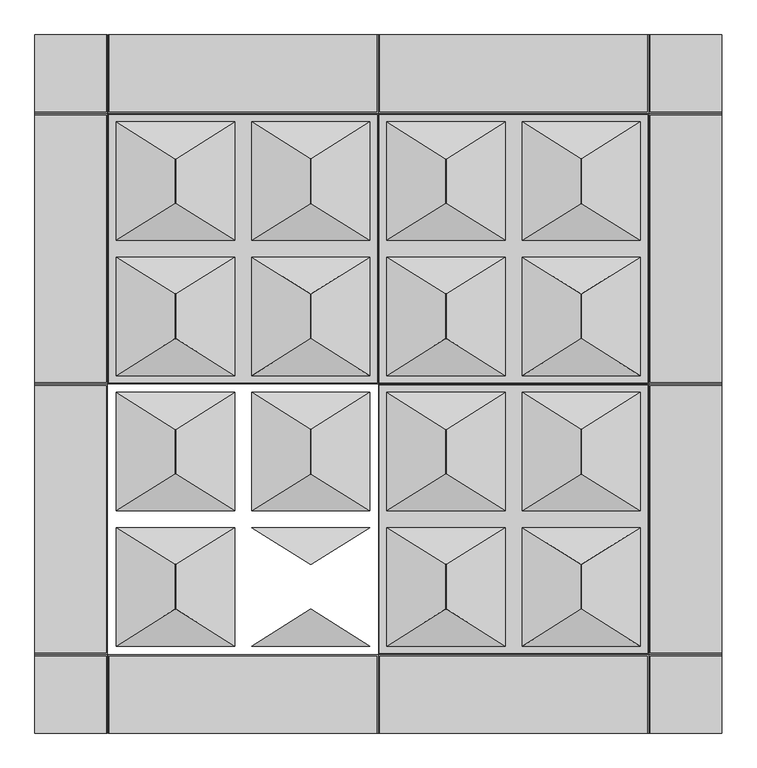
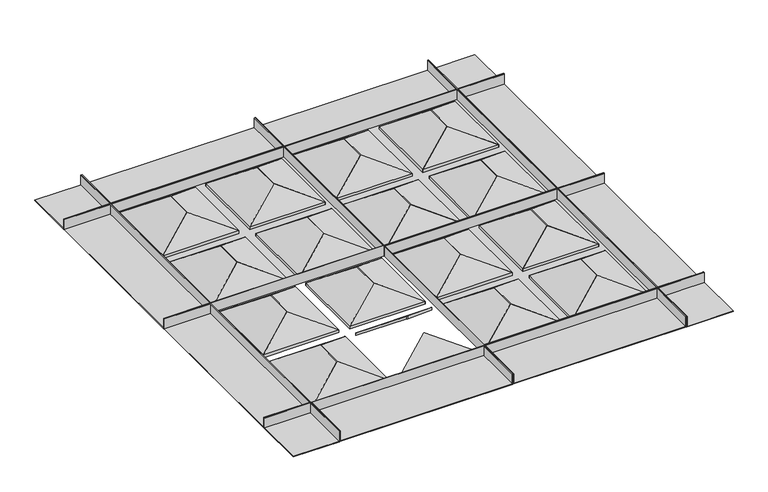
"""IFC4 building model written with IfcOpenShell, lengths in millimetres: proxy geometry, Maxxit_Piramid-Ceiling_rev-01 : Maxxit_Piramid-Ceiling_Quad."""

from ifc_helpers import new_model, si_unit, origin, place, context, project, spatial, faceted_brep, source, transform, mapped, element, save


def generic_models_4999bb29(model_context):
    return source(origin(), model_context, "Body", "Brep", [
        faceted_brep([(163.5125, 1395.4125, 25.4), (0.0, 1395.4125, 25.4), (0.0, 1393.825, 25.4), (161.925, 1393.825, 25.4), (161.925, 788.9875, 25.4), (0.0, 788.9875, 25.4), (0.0, 787.4, 25.4), (163.5125, 787.4, 25.4), (163.5125, 1395.4125, -12.7), (163.5125, 787.4, -12.7), (0.0, 787.4, -12.7), (0.0, 1395.4125, -12.7), (0.0, 788.9875, -11.1125), (0.0, 1393.825, -11.1125), (161.925, 788.9875, -11.1125), (161.925, 1393.825, -11.1125)], [[[0, 1, 2, 3, 4, 5, 6, 7]], [[8, 9, 10, 11]], [[1, 0, 8, 11]], [[11, 10, 6, 5, 12, 13, 2, 1]], [[7, 6, 10, 9]], [[0, 7, 9, 8]], [[14, 15, 13, 12]], [[13, 15, 3, 2]], [[14, 12, 5, 4]], [[15, 14, 4, 3]]]),
        faceted_brep([(163.5125, 785.8125, 25.4), (0.0, 785.8125, 25.4), (0.0, 784.225, 25.4), (161.925, 784.225, 25.4), (161.925, 179.3875, 25.4), (0.0, 179.3875, 25.4), (0.0, 177.8, 25.4), (163.5125, 177.8, 25.4), (163.5125, 785.8125, -12.7), (163.5125, 177.8, -12.7), (0.0, 177.8, -12.7), (0.0, 785.8125, -12.7), (0.0, 179.3875, -11.1125), (0.0, 784.225, -11.1125), (161.925, 179.3875, -11.1125), (161.925, 784.225, -11.1125)], [[[0, 1, 2, 3, 4, 5, 6, 7]], [[8, 9, 10, 11]], [[1, 0, 8, 11]], [[11, 10, 6, 5, 12, 13, 2, 1]], [[7, 6, 10, 9]], [[0, 7, 9, 8]], [[14, 15, 13, 12]], [[13, 15, 3, 2]], [[14, 12, 5, 4]], [[15, 14, 4, 3]]]),
        faceted_brep([(1384.3, 1395.4125, 25.4), (1384.3, 787.4, 25.4), (1547.8125, 787.4, 25.4), (1547.8125, 788.9875, 25.4), (1385.8875, 788.9875, 25.4), (1385.8875, 1393.825, 25.4), (1547.8125, 1393.825, 25.4), (1547.8125, 1395.4125, 25.4), (1384.3, 1395.4125, -12.7), (1547.8125, 1395.4125, -12.7), (1547.8125, 787.4, -12.7), (1384.3, 787.4, -12.7), (1547.8125, 1393.825, -11.1125), (1547.8125, 788.9875, -11.1125), (1385.8875, 788.9875, -11.1125), (1385.8875, 1393.825, -11.1125)], [[[0, 1, 2, 3, 4, 5, 6, 7]], [[8, 9, 10, 11]], [[7, 9, 8, 0]], [[9, 7, 6, 12, 13, 3, 2, 10]], [[1, 11, 10, 2]], [[0, 8, 11, 1]], [[14, 13, 12, 15]], [[12, 6, 5, 15]], [[14, 4, 3, 13]], [[15, 5, 4, 14]]]),
        faceted_brep([(1384.3, 785.8125, 25.4), (1384.3, 177.8, 25.4), (1547.8125, 177.8, 25.4), (1547.8125, 179.3875, 25.4), (1385.8875, 179.3875, 25.4), (1385.8875, 784.225, 25.4), (1547.8125, 784.225, 25.4), (1547.8125, 785.8125, 25.4), (1384.3, 785.8125, -12.7), (1547.8125, 785.8125, -12.7), (1547.8125, 177.8, -12.7), (1384.3, 177.8, -12.7), (1547.8125, 784.225, -11.1125), (1547.8125, 179.3875, -11.1125), (1385.8875, 179.3875, -11.1125), (1385.8875, 784.225, -11.1125)], [[[0, 1, 2, 3, 4, 5, 6, 7]], [[8, 9, 10, 11]], [[7, 9, 8, 0]], [[9, 7, 6, 12, 13, 3, 2, 10]], [[1, 11, 10, 2]], [[0, 8, 11, 1]], [[14, 13, 12, 15]], [[12, 6, 5, 15]], [[14, 4, 3, 13]], [[15, 5, 4, 14]]]),
        faceted_brep([(1382.7125, 1397.0, 25.4), (1382.7125, 1573.2125, 25.4), (1381.125, 1573.2125, 25.4), (1381.125, 1398.5875, 25.4), (776.2875, 1398.5875, 25.4), (776.2875, 1573.2125, 25.4), (774.7, 1573.2125, 25.4), (774.7, 1397.0, 25.4), (1382.7125, 1397.0, -12.7), (774.7, 1397.0, -12.7), (774.7, 1573.2125, -12.7), (1382.7125, 1573.2125, -12.7), (776.2875, 1573.2125, -11.1125), (1381.125, 1573.2125, -11.1125), (1381.125, 1398.5875, -11.1125), (776.2875, 1398.5875, -11.1125)], [[[0, 1, 2, 3, 4, 5, 6, 7]], [[8, 9, 10, 11]], [[7, 9, 8, 0]], [[6, 10, 9, 7]], [[10, 6, 5, 12, 13, 2, 1, 11]], [[0, 8, 11, 1]], [[14, 13, 12, 15]], [[15, 4, 3, 14]], [[15, 12, 5, 4]], [[3, 2, 13, 14]]]),
        faceted_brep([(773.1125, 1397.0, 25.4), (773.1125, 1573.2125, 25.4), (771.525, 1573.2125, 25.4), (771.525, 1398.5875, 25.4), (166.6875, 1398.5875, 25.4), (166.6875, 1573.2125, 25.4), (165.1, 1573.2125, 25.4), (165.1, 1397.0, 25.4), (773.1125, 1397.0, -12.7), (165.1, 1397.0, -12.7), (165.1, 1573.2125, -12.7), (773.1125, 1573.2125, -12.7), (166.6875, 1573.2125, -11.1125), (771.525, 1573.2125, -11.1125), (771.525, 1398.5875, -11.1125), (166.6875, 1398.5875, -11.1125)], [[[0, 1, 2, 3, 4, 5, 6, 7]], [[8, 9, 10, 11]], [[7, 9, 8, 0]], [[6, 10, 9, 7]], [[10, 6, 5, 12, 13, 2, 1, 11]], [[0, 8, 11, 1]], [[14, 13, 12, 15]], [[15, 4, 3, 14]], [[15, 12, 5, 4]], [[3, 2, 13, 14]]]),
        faceted_brep([(1382.7125, 176.2125, 25.4), (774.7, 176.2125, 25.4), (774.7, 0.0, 25.4), (776.2875, 0.0, 25.4), (776.2875, 174.625, 25.4), (1381.125, 174.625, 25.4), (1381.125, 0.0, 25.4), (1382.7125, 0.0, 25.4), (1382.7125, 176.2125, -12.7), (1382.7125, 0.0, -12.7), (774.7, 0.0, -12.7), (774.7, 176.2125, -12.7), (1381.125, 0.0, -11.1125), (776.2875, 0.0, -11.1125), (1381.125, 174.625, -11.1125), (776.2875, 174.625, -11.1125)], [[[0, 1, 2, 3, 4, 5, 6, 7]], [[8, 9, 10, 11]], [[1, 0, 8, 11]], [[2, 1, 11, 10]], [[10, 9, 7, 6, 12, 13, 3, 2]], [[0, 7, 9, 8]], [[14, 15, 13, 12]], [[15, 14, 5, 4]], [[15, 4, 3, 13]], [[5, 14, 12, 6]]]),
        faceted_brep([(773.1125, 176.2125, 25.4), (165.1, 176.2125, 25.4), (165.1, 0.0, 25.4), (166.6875, 0.0, 25.4), (166.6875, 174.625, 25.4), (771.525, 174.625, 25.4), (771.525, 0.0, 25.4), (773.1125, 0.0, 25.4), (773.1125, 176.2125, -12.7), (773.1125, 0.0, -12.7), (165.1, 0.0, -12.7), (165.1, 176.2125, -12.7), (771.525, 0.0, -11.1125), (166.6875, 0.0, -11.1125), (771.525, 174.625, -11.1125), (166.6875, 174.625, -11.1125)], [[[0, 1, 2, 3, 4, 5, 6, 7]], [[8, 9, 10, 11]], [[1, 0, 8, 11]], [[2, 1, 11, 10]], [[10, 9, 7, 6, 12, 13, 3, 2]], [[0, 7, 9, 8]], [[14, 15, 13, 12]], [[15, 14, 5, 4]], [[15, 4, 3, 13]], [[5, 14, 12, 6]]]),
        faceted_brep([(1547.8125, 176.2125, 25.4), (1384.3, 176.2125, 25.4), (1384.3, 0.0, 25.4), (1385.8875, 0.0, 25.4), (1385.8875, 174.625, 25.4), (1547.8125, 174.625, 25.4), (1384.3, 0.0, -12.7), (1384.3, 176.2125, -12.7), (1547.8125, 176.2125, -12.7), (1547.8125, 0.0, -12.7), (1547.8125, 0.0, -11.1125), (1385.8875, 0.0, -11.1125), (1547.8125, 174.625, -11.1125), (1385.8875, 174.625, -11.1125)], [[[0, 1, 2, 3, 4, 5]], [[6, 7, 8, 9]], [[6, 9, 10, 11, 3, 2]], [[9, 8, 0, 5, 12, 10]], [[2, 1, 7, 6]], [[1, 0, 8, 7]], [[13, 11, 10, 12]], [[11, 13, 4, 3]], [[13, 12, 5, 4]]]),
        faceted_brep([(163.5125, 0.0, 25.4), (163.5125, 176.2125, 25.4), (0.0, 176.2125, 25.4), (0.0, 174.625, 25.4), (161.925, 174.625, 25.4), (161.925, 0.0, 25.4), (0.0, 176.2125, -12.7), (163.5125, 176.2125, -12.7), (163.5125, 0.0, -12.7), (0.0, 0.0, -12.7), (0.0, 0.0, -11.1125), (0.0, 174.625, -11.1125), (161.925, 0.0, -11.1125), (161.925, 174.625, -11.1125)], [[[0, 1, 2, 3, 4, 5]], [[6, 7, 8, 9]], [[6, 9, 10, 11, 3, 2]], [[9, 8, 0, 5, 12, 10]], [[1, 0, 8, 7]], [[2, 1, 7, 6]], [[13, 11, 10, 12]], [[11, 13, 4, 3]], [[13, 12, 5, 4]]]),
        faceted_brep([(163.5125, 1397.0, 25.4), (163.5125, 1573.2125, 25.4), (161.925, 1573.2125, 25.4), (161.925, 1398.5875, 25.4), (0.0, 1398.5875, 25.4), (0.0, 1397.0, 25.4), (163.5125, 1397.0, -12.7), (0.0, 1397.0, -12.7), (0.0, 1573.2125, -12.7), (163.5125, 1573.2125, -12.7), (0.0, 1573.2125, -11.1125), (161.925, 1573.2125, -11.1125), (0.0, 1398.5875, -11.1125), (161.925, 1398.5875, -11.1125)], [[[0, 1, 2, 3, 4, 5]], [[6, 7, 8, 9]], [[1, 0, 6, 9]], [[0, 5, 7, 6]], [[9, 8, 10, 11, 2, 1]], [[8, 7, 5, 4, 12, 10]], [[13, 11, 10, 12]], [[11, 13, 3, 2]], [[13, 12, 4, 3]]]),
        faceted_brep([(1384.3, 1573.2125, 25.4), (1384.3, 1397.0, 25.4), (1547.8125, 1397.0, 25.4), (1547.8125, 1398.5875, 25.4), (1385.8875, 1398.5875, 25.4), (1385.8875, 1573.2125, 25.4), (1384.3, 1573.2125, -12.7), (1547.8125, 1573.2125, -12.7), (1547.8125, 1397.0, -12.7), (1384.3, 1397.0, -12.7), (1385.8875, 1573.2125, -11.1125), (1547.8125, 1573.2125, -11.1125), (1547.8125, 1398.5875, -11.1125), (1385.8875, 1398.5875, -11.1125)], [[[0, 1, 2, 3, 4, 5]], [[6, 7, 8, 9]], [[7, 6, 0, 5, 10, 11]], [[1, 0, 6, 9]], [[2, 1, 9, 8]], [[8, 7, 11, 12, 3, 2]], [[13, 12, 11, 10]], [[12, 13, 4, 3]], [[13, 10, 5, 4]]]),
        faceted_brep([(1364.45625, 1110.5651445, -11.1125), (1364.45625, 1377.2651445, -11.1125), (1364.45625, 1377.2651445, -1.5875), (1364.45625, 1110.5651445, -1.5875), (1097.75625, 1110.5651445, -1.5875), (1097.75625, 1377.2651445, -1.5875), (1097.75625, 1377.2651445, -11.1125), (1097.75625, 1110.5651445, -11.1125), (1232.6937779, 1294.715162, 62.70625), (1232.6937779, 1193.115127, 62.70625), (1232.6937779, 1193.115127, 53.18125), (1232.6937779, 1294.715162, 53.18125), (1229.5187221, 1193.115127, 53.18125), (1229.5187221, 1294.715162, 53.18125), (1229.5187221, 1193.115127, 62.70625), (1229.5187221, 1294.715162, 62.70625)], [[[0, 1, 2, 3]], [[4, 5, 6, 7]], [[3, 2, 8, 9]], [[1, 0, 10, 11]], [[11, 10, 12, 13]], [[7, 6, 13, 12]], [[5, 4, 14, 15]], [[15, 14, 9, 8]], [[11, 8, 2, 1]], [[15, 13, 6, 5]], [[12, 14, 4, 7]], [[9, 10, 0, 3]], [[13, 15, 8, 11]], [[14, 12, 10, 9]]]),
        faceted_brep([(1364.45625, 1377.2651445, -1.5875), (1097.75625, 1377.2651445, -1.5875), (1229.5187221, 1294.715162, 62.70625), (1232.6937779, 1294.715162, 62.70625), (1229.5187221, 1294.715162, 53.18125), (1232.6937779, 1294.715162, 53.18125), (1097.75625, 1377.2651445, -11.1125), (1364.45625, 1377.2651445, -11.1125)], [[[0, 1, 2, 3]], [[3, 2, 4, 5]], [[6, 7, 5, 4]], [[1, 0, 7, 6]], [[0, 3, 5, 7]], [[2, 1, 6, 4]]]),
        faceted_brep([(1097.75625, 1110.5651445, -11.1125), (1364.45625, 1110.5651445, -11.1125), (1364.45625, 1110.5651445, -1.5875), (1097.75625, 1110.5651445, -1.5875), (1229.5187221, 1193.115127, 53.18125), (1232.6937779, 1193.115127, 53.18125), (1229.5187221, 1193.115127, 62.70625), (1232.6937779, 1193.115127, 62.70625)], [[[0, 1, 2, 3]], [[1, 0, 4, 5]], [[5, 4, 6, 7]], [[3, 2, 7, 6]], [[2, 1, 5, 7]], [[0, 3, 6, 4]]]),
        faceted_brep([(1059.65625, 1377.2651445, -1.5875), (792.95625, 1377.2651445, -1.5875), (924.7187221, 1294.715162, 62.70625), (927.8937779, 1294.715162, 62.70625), (924.7187221, 1294.715162, 53.18125), (927.8937779, 1294.715162, 53.18125), (792.95625, 1377.2651445, -11.1125), (1059.65625, 1377.2651445, -11.1125)], [[[0, 1, 2, 3]], [[3, 2, 4, 5]], [[6, 7, 5, 4]], [[1, 0, 7, 6]], [[2, 1, 6, 4]], [[0, 3, 5, 7]]]),
        faceted_brep([(1059.65625, 1110.5651445, -1.5875), (792.95625, 1110.5651445, -1.5875), (792.95625, 1110.5651445, -11.1125), (1059.65625, 1110.5651445, -11.1125), (924.7187221, 1193.115127, 53.18125), (927.8937779, 1193.115127, 53.18125), (924.7187221, 1193.115127, 62.70625), (927.8937779, 1193.115127, 62.70625)], [[[0, 1, 2, 3]], [[3, 2, 4, 5]], [[5, 4, 6, 7]], [[1, 0, 7, 6]], [[2, 1, 6, 4]], [[0, 3, 5, 7]]]),
        faceted_brep([(792.95625, 1110.5651445, -1.5875), (792.95625, 1377.2651445, -1.5875), (792.95625, 1377.2651445, -11.1125), (792.95625, 1110.5651445, -11.1125), (1059.65625, 1110.5651445, -11.1125), (1059.65625, 1377.2651445, -11.1125), (1059.65625, 1377.2651445, -1.5875), (1059.65625, 1110.5651445, -1.5875), (924.7187221, 1193.115127, 62.70625), (924.7187221, 1294.715162, 62.70625), (924.7187221, 1294.715162, 53.18125), (924.7187221, 1193.115127, 53.18125), (927.8937779, 1294.715162, 53.18125), (927.8937779, 1193.115127, 53.18125), (927.8937779, 1294.715162, 62.70625), (927.8937779, 1193.115127, 62.70625)], [[[0, 1, 2, 3]], [[4, 5, 6, 7]], [[1, 0, 8, 9]], [[3, 2, 10, 11]], [[11, 10, 12, 13]], [[5, 4, 13, 12]], [[7, 6, 14, 15]], [[9, 8, 15, 14]], [[9, 10, 2, 1]], [[12, 14, 6, 5]], [[15, 13, 4, 7]], [[11, 8, 0, 3]], [[10, 9, 14, 12]], [[8, 11, 13, 15]]]),
        faceted_brep([(792.95625, 1072.2473555, -11.1125), (792.95625, 805.5473555, -11.1125), (792.95625, 805.5473555, -1.5875), (792.95625, 1072.2473555, -1.5875), (1059.65625, 1072.2473555, -1.5875), (1059.65625, 805.5473555, -1.5875), (1059.65625, 805.5473555, -11.1125), (1059.65625, 1072.2473555, -11.1125), (924.7187221, 888.097338, 62.70625), (924.7187221, 989.697373, 62.70625), (924.7187221, 989.697373, 53.18125), (924.7187221, 888.097338, 53.18125), (927.8937779, 989.697373, 53.18125), (927.8937779, 888.097338, 53.18125), (927.8937779, 989.697373, 62.70625), (927.8937779, 888.097338, 62.70625)], [[[0, 1, 2, 3]], [[4, 5, 6, 7]], [[3, 2, 8, 9]], [[1, 0, 10, 11]], [[11, 10, 12, 13]], [[7, 6, 13, 12]], [[5, 4, 14, 15]], [[15, 14, 9, 8]], [[11, 8, 2, 1]], [[15, 13, 6, 5]], [[12, 14, 4, 7]], [[9, 10, 0, 3]], [[13, 15, 8, 11]], [[14, 12, 10, 9]]]),
        faceted_brep([(792.95625, 805.5473555, -1.5875), (1059.65625, 805.5473555, -1.5875), (927.8937779, 888.097338, 62.70625), (924.7187221, 888.097338, 62.70625), (927.8937779, 888.097338, 53.18125), (924.7187221, 888.097338, 53.18125), (1059.65625, 805.5473555, -11.1125), (792.95625, 805.5473555, -11.1125)], [[[0, 1, 2, 3]], [[3, 2, 4, 5]], [[6, 7, 5, 4]], [[1, 0, 7, 6]], [[0, 3, 5, 7]], [[2, 1, 6, 4]]]),
        faceted_brep([(1059.65625, 1072.2473555, -11.1125), (792.95625, 1072.2473555, -11.1125), (792.95625, 1072.2473555, -1.5875), (1059.65625, 1072.2473555, -1.5875), (927.8937779, 989.697373, 53.18125), (924.7187221, 989.697373, 53.18125), (927.8937779, 989.697373, 62.70625), (924.7187221, 989.697373, 62.70625)], [[[0, 1, 2, 3]], [[1, 0, 4, 5]], [[5, 4, 6, 7]], [[3, 2, 7, 6]], [[2, 1, 5, 7]], [[0, 3, 6, 4]]]),
        faceted_brep([(1097.75625, 805.5473555, -1.5875), (1364.45625, 805.5473555, -1.5875), (1232.6937779, 888.097338, 62.70625), (1229.5187221, 888.097338, 62.70625), (1232.6937779, 888.097338, 53.18125), (1229.5187221, 888.097338, 53.18125), (1364.45625, 805.5473555, -11.1125), (1097.75625, 805.5473555, -11.1125)], [[[0, 1, 2, 3]], [[3, 2, 4, 5]], [[6, 7, 5, 4]], [[1, 0, 7, 6]], [[2, 1, 6, 4]], [[0, 3, 5, 7]]]),
        faceted_brep([(1097.75625, 1072.2473555, -1.5875), (1364.45625, 1072.2473555, -1.5875), (1364.45625, 1072.2473555, -11.1125), (1097.75625, 1072.2473555, -11.1125), (1232.6937779, 989.697373, 53.18125), (1229.5187221, 989.697373, 53.18125), (1232.6937779, 989.697373, 62.70625), (1229.5187221, 989.697373, 62.70625)], [[[0, 1, 2, 3]], [[3, 2, 4, 5]], [[5, 4, 6, 7]], [[1, 0, 7, 6]], [[2, 1, 6, 4]], [[0, 3, 5, 7]]]),
        faceted_brep([(1364.45625, 1072.2473555, -1.5875), (1364.45625, 805.5473555, -1.5875), (1364.45625, 805.5473555, -11.1125), (1364.45625, 1072.2473555, -11.1125), (1097.75625, 1072.2473555, -11.1125), (1097.75625, 805.5473555, -11.1125), (1097.75625, 805.5473555, -1.5875), (1097.75625, 1072.2473555, -1.5875), (1232.6937779, 989.697373, 62.70625), (1232.6937779, 888.097338, 62.70625), (1232.6937779, 888.097338, 53.18125), (1229.5187221, 888.097338, 53.18125), (1229.5187221, 888.097338, 62.70625), (1229.5187221, 989.697373, 62.70625), (1229.5187221, 989.697373, 53.18125), (1232.6937779, 989.697373, 53.18125)], [[[0, 1, 2, 3]], [[4, 5, 6, 7]], [[1, 0, 8, 9]], [[9, 10, 2, 1]], [[11, 12, 6, 5]], [[13, 14, 4, 7]], [[15, 8, 0, 3]], [[10, 9, 12, 11]], [[8, 15, 14, 13]], [[3, 2, 10, 15]], [[15, 10, 11, 14]], [[5, 4, 14, 11]], [[7, 6, 12, 13]], [[9, 8, 13, 12]]]),
        faceted_brep([(774.7, 787.4, 25.4), (1382.7125, 787.4, 25.4), (1382.7125, 1395.4125, 25.4), (774.7, 1395.4125, 25.4), (1381.125, 788.9875, 25.4), (776.2875, 788.9875, 25.4), (776.2875, 1393.825, 25.4), (1381.125, 1393.825, 25.4), (774.7, 787.4, -12.7), (774.7, 1395.4125, -12.7), (1382.7125, 1395.4125, -12.7), (1382.7125, 787.4, -12.7), (1364.45625, 805.5473555, -12.7), (1364.45625, 1072.2473555, -12.7), (1097.75625, 1072.2473555, -12.7), (1097.75625, 805.5473555, -12.7), (792.95625, 805.5473555, -12.7), (1059.65625, 805.5473555, -12.7), (1059.65625, 888.097338, -12.7), (1059.65625, 989.697373, -12.7), (1059.65625, 1072.2473555, -12.7), (792.95625, 1072.2473555, -12.7), (792.95625, 989.6973555, -12.7), (792.95625, 888.0973555, -12.7), (1364.45625, 1377.2651445, -12.7), (1097.75625, 1377.2651445, -12.7), (1097.75625, 1294.715162, -12.7), (1097.75625, 1193.115127, -12.7), (1097.75625, 1110.5651445, -12.7), (1364.45625, 1110.5651445, -12.7), (1364.45625, 1193.1151445, -12.7), (1364.45625, 1294.7151445, -12.7), (792.95625, 1110.5651445, -12.7), (1059.65625, 1110.5651445, -12.7), (1059.65625, 1193.115127, -12.7), (1059.65625, 1294.715162, -12.7), (1059.65625, 1377.2651445, -12.7), (792.95625, 1377.2651445, -12.7), (792.95625, 1294.7151445, -12.7), (792.95625, 1193.1151445, -12.7), (776.2875, 788.9875, -11.1125), (1381.125, 788.9875, -11.1125), (1381.125, 1393.825, -11.1125), (776.2875, 1393.825, -11.1125), (1364.45625, 805.5473555, -11.1125), (1097.75625, 805.5473555, -11.1125), (1097.75625, 1072.2473555, -11.1125), (1364.45625, 1072.2473555, -11.1125), (792.95625, 1072.2473555, -11.1125), (1059.65625, 1072.2473555, -11.1125), (1059.65625, 989.697373, -11.1125), (1059.65625, 888.097338, -11.1125), (1059.65625, 805.5473555, -11.1125), (792.95625, 805.5473555, -11.1125), (792.95625, 888.0973555, -11.1125), (792.95625, 989.6973555, -11.1125), (1364.45625, 1110.5651445, -11.1125), (1097.75625, 1110.5651445, -11.1125), (1097.75625, 1193.115127, -11.1125), (1097.75625, 1294.715162, -11.1125), (1097.75625, 1377.2651445, -11.1125), (1364.45625, 1377.2651445, -11.1125), (1364.45625, 1294.7151445, -11.1125), (1364.45625, 1193.1151445, -11.1125), (792.95625, 1377.2651445, -11.1125), (1059.65625, 1377.2651445, -11.1125), (1059.65625, 1294.715162, -11.1125), (1059.65625, 1193.115127, -11.1125), (1059.65625, 1110.5651445, -11.1125), (792.95625, 1110.5651445, -11.1125), (792.95625, 1193.1151445, -11.1125), (792.95625, 1294.7151445, -11.1125)], [[[0, 1, 2, 3], [4, 5, 6, 7]], [[8, 9, 10, 11], [12, 13, 14, 15], [16, 17, 18, 19, 20, 21, 22, 23], [24, 25, 26, 27, 28, 29, 30, 31], [32, 33, 34, 35, 36, 37, 38, 39]], [[1, 0, 8, 11]], [[2, 1, 11, 10]], [[3, 2, 10, 9]], [[0, 3, 9, 8]], [[40, 41, 42, 43], [44, 45, 46, 47], [48, 49, 50, 51, 52, 53, 54, 55], [56, 57, 58, 59, 60, 61, 62, 63], [64, 65, 66, 67, 68, 69, 70, 71]], [[41, 40, 5, 4]], [[42, 41, 4, 7]], [[43, 42, 7, 6]], [[40, 43, 6, 5]], [[12, 15, 45, 44]], [[15, 14, 46, 45]], [[14, 13, 47, 46]], [[13, 12, 44, 47]], [[53, 16, 23, 22, 21, 48, 55, 54]], [[21, 20, 49, 48]], [[49, 20, 19, 18, 17, 52, 51, 50]], [[17, 16, 53, 52]], [[61, 24, 31, 30, 29, 56, 63, 62]], [[29, 28, 57, 56]], [[57, 28, 27, 26, 25, 60, 59, 58]], [[25, 24, 61, 60]], [[37, 36, 65, 64]], [[65, 36, 35, 34, 33, 68, 67, 66]], [[33, 32, 69, 68]], [[37, 64, 71, 70, 69, 32, 39, 38]]]),
        faceted_brep([(754.85625, 1110.5651445, -11.1125), (754.85625, 1377.2651445, -11.1125), (754.85625, 1377.2651445, -1.5875), (754.85625, 1110.5651445, -1.5875), (488.15625, 1110.5651445, -1.5875), (488.15625, 1377.2651445, -1.5875), (488.15625, 1377.2651445, -11.1125), (488.15625, 1110.5651445, -11.1125), (623.0937779, 1294.715162, 62.70625), (623.0937779, 1193.115127, 62.70625), (623.0937779, 1193.115127, 53.18125), (623.0937779, 1294.715162, 53.18125), (619.9187221, 1193.115127, 53.18125), (619.9187221, 1294.715162, 53.18125), (619.9187221, 1193.115127, 62.70625), (619.9187221, 1294.715162, 62.70625)], [[[0, 1, 2, 3]], [[4, 5, 6, 7]], [[3, 2, 8, 9]], [[1, 0, 10, 11]], [[11, 10, 12, 13]], [[7, 6, 13, 12]], [[5, 4, 14, 15]], [[15, 14, 9, 8]], [[11, 8, 2, 1]], [[15, 13, 6, 5]], [[12, 14, 4, 7]], [[9, 10, 0, 3]], [[13, 15, 8, 11]], [[14, 12, 10, 9]]]),
        faceted_brep([(754.85625, 1377.2651445, -1.5875), (488.15625, 1377.2651445, -1.5875), (619.9187221, 1294.715162, 62.70625), (623.0937779, 1294.715162, 62.70625), (619.9187221, 1294.715162, 53.18125), (623.0937779, 1294.715162, 53.18125), (488.15625, 1377.2651445, -11.1125), (754.85625, 1377.2651445, -11.1125)], [[[0, 1, 2, 3]], [[3, 2, 4, 5]], [[6, 7, 5, 4]], [[1, 0, 7, 6]], [[0, 3, 5, 7]], [[2, 1, 6, 4]]]),
        faceted_brep([(488.15625, 1110.5651445, -11.1125), (754.85625, 1110.5651445, -11.1125), (754.85625, 1110.5651445, -1.5875), (488.15625, 1110.5651445, -1.5875), (619.9187221, 1193.115127, 53.18125), (623.0937779, 1193.115127, 53.18125), (619.9187221, 1193.115127, 62.70625), (623.0937779, 1193.115127, 62.70625)], [[[0, 1, 2, 3]], [[1, 0, 4, 5]], [[5, 4, 6, 7]], [[3, 2, 7, 6]], [[2, 1, 5, 7]], [[0, 3, 6, 4]]]),
        faceted_brep([(450.05625, 1377.2651445, -1.5875), (183.35625, 1377.2651445, -1.5875), (315.1187221, 1294.715162, 62.70625), (318.2937779, 1294.715162, 62.70625), (315.1187221, 1294.715162, 53.18125), (318.2937779, 1294.715162, 53.18125), (183.35625, 1377.2651445, -11.1125), (450.05625, 1377.2651445, -11.1125)], [[[0, 1, 2, 3]], [[3, 2, 4, 5]], [[6, 7, 5, 4]], [[1, 0, 7, 6]], [[2, 1, 6, 4]], [[0, 3, 5, 7]]]),
        faceted_brep([(450.05625, 1110.5651445, -1.5875), (183.35625, 1110.5651445, -1.5875), (183.35625, 1110.5651445, -11.1125), (450.05625, 1110.5651445, -11.1125), (315.1187221, 1193.115127, 53.18125), (318.2937779, 1193.115127, 53.18125), (315.1187221, 1193.115127, 62.70625), (318.2937779, 1193.115127, 62.70625)], [[[0, 1, 2, 3]], [[3, 2, 4, 5]], [[5, 4, 6, 7]], [[1, 0, 7, 6]], [[2, 1, 6, 4]], [[0, 3, 5, 7]]]),
        faceted_brep([(183.35625, 1110.5651445, -1.5875), (183.35625, 1377.2651445, -1.5875), (183.35625, 1377.2651445, -11.1125), (183.35625, 1110.5651445, -11.1125), (450.05625, 1110.5651445, -11.1125), (450.05625, 1377.2651445, -11.1125), (450.05625, 1377.2651445, -1.5875), (450.05625, 1110.5651445, -1.5875), (315.1187221, 1193.115127, 62.70625), (315.1187221, 1294.715162, 62.70625), (315.1187221, 1294.715162, 53.18125), (315.1187221, 1193.115127, 53.18125), (318.2937779, 1294.715162, 53.18125), (318.2937779, 1193.115127, 53.18125), (318.2937779, 1294.715162, 62.70625), (318.2937779, 1193.115127, 62.70625)], [[[0, 1, 2, 3]], [[4, 5, 6, 7]], [[1, 0, 8, 9]], [[3, 2, 10, 11]], [[11, 10, 12, 13]], [[5, 4, 13, 12]], [[7, 6, 14, 15]], [[9, 8, 15, 14]], [[9, 10, 2, 1]], [[12, 14, 6, 5]], [[15, 13, 4, 7]], [[11, 8, 0, 3]], [[10, 9, 14, 12]], [[8, 11, 13, 15]]]),
        faceted_brep([(183.35625, 1072.2473555, -11.1125), (183.35625, 805.5473555, -11.1125), (183.35625, 805.5473555, -1.5875), (183.35625, 1072.2473555, -1.5875), (450.05625, 1072.2473555, -1.5875), (450.05625, 805.5473555, -1.5875), (450.05625, 805.5473555, -11.1125), (450.05625, 1072.2473555, -11.1125), (315.1187221, 888.097338, 62.70625), (315.1187221, 989.697373, 62.70625), (315.1187221, 989.697373, 53.18125), (315.1187221, 888.097338, 53.18125), (318.2937779, 989.697373, 53.18125), (318.2937779, 888.097338, 53.18125), (318.2937779, 989.697373, 62.70625), (318.2937779, 888.097338, 62.70625)], [[[0, 1, 2, 3]], [[4, 5, 6, 7]], [[3, 2, 8, 9]], [[1, 0, 10, 11]], [[11, 10, 12, 13]], [[7, 6, 13, 12]], [[5, 4, 14, 15]], [[15, 14, 9, 8]], [[11, 8, 2, 1]], [[15, 13, 6, 5]], [[12, 14, 4, 7]], [[9, 10, 0, 3]], [[13, 15, 8, 11]], [[14, 12, 10, 9]]]),
        faceted_brep([(183.35625, 805.5473555, -1.5875), (450.05625, 805.5473555, -1.5875), (318.2937779, 888.097338, 62.70625), (315.1187221, 888.097338, 62.70625), (318.2937779, 888.097338, 53.18125), (315.1187221, 888.097338, 53.18125), (450.05625, 805.5473555, -11.1125), (183.35625, 805.5473555, -11.1125)], [[[0, 1, 2, 3]], [[3, 2, 4, 5]], [[6, 7, 5, 4]], [[1, 0, 7, 6]], [[0, 3, 5, 7]], [[2, 1, 6, 4]]]),
        faceted_brep([(450.05625, 1072.2473555, -11.1125), (183.35625, 1072.2473555, -11.1125), (183.35625, 1072.2473555, -1.5875), (450.05625, 1072.2473555, -1.5875), (318.2937779, 989.697373, 53.18125), (315.1187221, 989.697373, 53.18125), (318.2937779, 989.697373, 62.70625), (315.1187221, 989.697373, 62.70625)], [[[0, 1, 2, 3]], [[1, 0, 4, 5]], [[5, 4, 6, 7]], [[3, 2, 7, 6]], [[2, 1, 5, 7]], [[0, 3, 6, 4]]]),
        faceted_brep([(488.15625, 805.5473555, -1.5875), (754.85625, 805.5473555, -1.5875), (623.0937779, 888.097338, 62.70625), (619.9187221, 888.097338, 62.70625), (623.0937779, 888.097338, 53.18125), (619.9187221, 888.097338, 53.18125), (754.85625, 805.5473555, -11.1125), (488.15625, 805.5473555, -11.1125)], [[[0, 1, 2, 3]], [[3, 2, 4, 5]], [[6, 7, 5, 4]], [[1, 0, 7, 6]], [[2, 1, 6, 4]], [[0, 3, 5, 7]]]),
        faceted_brep([(488.15625, 1072.2473555, -1.5875), (754.85625, 1072.2473555, -1.5875), (754.85625, 1072.2473555, -11.1125), (488.15625, 1072.2473555, -11.1125), (623.0937779, 989.697373, 53.18125), (619.9187221, 989.697373, 53.18125), (623.0937779, 989.697373, 62.70625), (619.9187221, 989.697373, 62.70625)], [[[0, 1, 2, 3]], [[3, 2, 4, 5]], [[5, 4, 6, 7]], [[1, 0, 7, 6]], [[2, 1, 6, 4]], [[0, 3, 5, 7]]]),
        faceted_brep([(754.85625, 1072.2473555, -1.5875), (754.85625, 805.5473555, -1.5875), (754.85625, 805.5473555, -11.1125), (754.85625, 1072.2473555, -11.1125), (488.15625, 1072.2473555, -11.1125), (488.15625, 805.5473555, -11.1125), (488.15625, 805.5473555, -1.5875), (488.15625, 1072.2473555, -1.5875), (623.0937779, 989.697373, 62.70625), (623.0937779, 888.097338, 62.70625), (623.0937779, 888.097338, 53.18125), (619.9187221, 888.097338, 53.18125), (619.9187221, 888.097338, 62.70625), (619.9187221, 989.697373, 62.70625), (619.9187221, 989.697373, 53.18125), (623.0937779, 989.697373, 53.18125)], [[[0, 1, 2, 3]], [[4, 5, 6, 7]], [[1, 0, 8, 9]], [[9, 10, 2, 1]], [[11, 12, 6, 5]], [[13, 14, 4, 7]], [[15, 8, 0, 3]], [[10, 9, 12, 11]], [[8, 15, 14, 13]], [[3, 2, 10, 15]], [[15, 10, 11, 14]], [[5, 4, 14, 11]], [[7, 6, 12, 13]], [[9, 8, 13, 12]]]),
        faceted_brep([(165.1, 787.4, 25.4), (773.1125, 787.4, 25.4), (773.1125, 1395.4125, 25.4), (165.1, 1395.4125, 25.4), (771.525, 788.9875, 25.4), (166.6875, 788.9875, 25.4), (166.6875, 1393.825, 25.4), (771.525, 1393.825, 25.4), (165.1, 787.4, -12.7), (165.1, 1395.4125, -12.7), (773.1125, 1395.4125, -12.7), (773.1125, 787.4, -12.7), (754.85625, 805.5473555, -12.7), (754.85625, 1072.2473555, -12.7), (488.15625, 1072.2473555, -12.7), (488.15625, 805.5473555, -12.7), (183.35625, 805.5473555, -12.7), (450.05625, 805.5473555, -12.7), (450.05625, 888.097338, -12.7), (450.05625, 989.697373, -12.7), (450.05625, 1072.2473555, -12.7), (183.35625, 1072.2473555, -12.7), (183.35625, 989.6973555, -12.7), (183.35625, 888.0973555, -12.7), (754.85625, 1377.2651445, -12.7), (488.15625, 1377.2651445, -12.7), (488.15625, 1294.715162, -12.7), (488.15625, 1193.115127, -12.7), (488.15625, 1110.5651445, -12.7), (754.85625, 1110.5651445, -12.7), (754.85625, 1193.1151445, -12.7), (754.85625, 1294.7151445, -12.7), (183.35625, 1110.5651445, -12.7), (450.05625, 1110.5651445, -12.7), (450.05625, 1193.115127, -12.7), (450.05625, 1294.715162, -12.7), (450.05625, 1377.2651445, -12.7), (183.35625, 1377.2651445, -12.7), (183.35625, 1294.7151445, -12.7), (183.35625, 1193.1151445, -12.7), (166.6875, 788.9875, -11.1125), (771.525, 788.9875, -11.1125), (771.525, 1393.825, -11.1125), (166.6875, 1393.825, -11.1125), (754.85625, 805.5473555, -11.1125), (488.15625, 805.5473555, -11.1125), (488.15625, 1072.2473555, -11.1125), (754.85625, 1072.2473555, -11.1125), (183.35625, 1072.2473555, -11.1125), (450.05625, 1072.2473555, -11.1125), (450.05625, 989.697373, -11.1125), (450.05625, 888.097338, -11.1125), (450.05625, 805.5473555, -11.1125), (183.35625, 805.5473555, -11.1125), (183.35625, 888.0973555, -11.1125), (183.35625, 989.6973555, -11.1125), (754.85625, 1110.5651445, -11.1125), (488.15625, 1110.5651445, -11.1125), (488.15625, 1193.115127, -11.1125), (488.15625, 1294.715162, -11.1125), (488.15625, 1377.2651445, -11.1125), (754.85625, 1377.2651445, -11.1125), (754.85625, 1294.7151445, -11.1125), (754.85625, 1193.1151445, -11.1125), (183.35625, 1377.2651445, -11.1125), (450.05625, 1377.2651445, -11.1125), (450.05625, 1294.715162, -11.1125), (450.05625, 1193.115127, -11.1125), (450.05625, 1110.5651445, -11.1125), (183.35625, 1110.5651445, -11.1125), (183.35625, 1193.1151445, -11.1125), (183.35625, 1294.7151445, -11.1125)], [[[0, 1, 2, 3], [4, 5, 6, 7]], [[8, 9, 10, 11], [12, 13, 14, 15], [16, 17, 18, 19, 20, 21, 22, 23], [24, 25, 26, 27, 28, 29, 30, 31], [32, 33, 34, 35, 36, 37, 38, 39]], [[1, 0, 8, 11]], [[2, 1, 11, 10]], [[3, 2, 10, 9]], [[0, 3, 9, 8]], [[40, 41, 42, 43], [44, 45, 46, 47], [48, 49, 50, 51, 52, 53, 54, 55], [56, 57, 58, 59, 60, 61, 62, 63], [64, 65, 66, 67, 68, 69, 70, 71]], [[41, 40, 5, 4]], [[42, 41, 4, 7]], [[43, 42, 7, 6]], [[40, 43, 6, 5]], [[12, 15, 45, 44]], [[15, 14, 46, 45]], [[14, 13, 47, 46]], [[13, 12, 44, 47]], [[53, 16, 23, 22, 21, 48, 55, 54]], [[21, 20, 49, 48]], [[49, 20, 19, 18, 17, 52, 51, 50]], [[17, 16, 53, 52]], [[61, 24, 31, 30, 29, 56, 63, 62]], [[29, 28, 57, 56]], [[57, 28, 27, 26, 25, 60, 59, 58]], [[25, 24, 61, 60]], [[37, 36, 65, 64]], [[65, 36, 35, 34, 33, 68, 67, 66]], [[33, 32, 69, 68]], [[37, 64, 71, 70, 69, 32, 39, 38]]]),
        faceted_brep([(1364.45625, 500.9651445, -11.1125), (1364.45625, 767.6651445, -11.1125), (1364.45625, 767.6651445, -1.5875), (1364.45625, 500.9651445, -1.5875), (1097.75625, 500.9651445, -1.5875), (1097.75625, 767.6651445, -1.5875), (1097.75625, 767.6651445, -11.1125), (1097.75625, 500.9651445, -11.1125), (1232.6937779, 685.115162, 62.70625), (1232.6937779, 583.515127, 62.70625), (1232.6937779, 583.515127, 53.18125), (1232.6937779, 685.115162, 53.18125), (1229.5187221, 583.515127, 53.18125), (1229.5187221, 685.115162, 53.18125), (1229.5187221, 583.515127, 62.70625), (1229.5187221, 685.115162, 62.70625)], [[[0, 1, 2, 3]], [[4, 5, 6, 7]], [[3, 2, 8, 9]], [[1, 0, 10, 11]], [[11, 10, 12, 13]], [[7, 6, 13, 12]], [[5, 4, 14, 15]], [[15, 14, 9, 8]], [[11, 8, 2, 1]], [[15, 13, 6, 5]], [[12, 14, 4, 7]], [[9, 10, 0, 3]], [[13, 15, 8, 11]], [[14, 12, 10, 9]]]),
        faceted_brep([(1364.45625, 767.6651445, -1.5875), (1097.75625, 767.6651445, -1.5875), (1229.5187221, 685.115162, 62.70625), (1232.6937779, 685.115162, 62.70625), (1229.5187221, 685.115162, 53.18125), (1232.6937779, 685.115162, 53.18125), (1097.75625, 767.6651445, -11.1125), (1364.45625, 767.6651445, -11.1125)], [[[0, 1, 2, 3]], [[3, 2, 4, 5]], [[6, 7, 5, 4]], [[1, 0, 7, 6]], [[0, 3, 5, 7]], [[2, 1, 6, 4]]]),
        faceted_brep([(1097.75625, 500.9651445, -11.1125), (1364.45625, 500.9651445, -11.1125), (1364.45625, 500.9651445, -1.5875), (1097.75625, 500.9651445, -1.5875), (1229.5187221, 583.515127, 53.18125), (1232.6937779, 583.515127, 53.18125), (1229.5187221, 583.515127, 62.70625), (1232.6937779, 583.515127, 62.70625)], [[[0, 1, 2, 3]], [[1, 0, 4, 5]], [[5, 4, 6, 7]], [[3, 2, 7, 6]], [[2, 1, 5, 7]], [[0, 3, 6, 4]]]),
        faceted_brep([(1059.65625, 767.6651445, -1.5875), (792.95625, 767.6651445, -1.5875), (924.7187221, 685.115162, 62.70625), (927.8937779, 685.115162, 62.70625), (924.7187221, 685.115162, 53.18125), (927.8937779, 685.115162, 53.18125), (792.95625, 767.6651445, -11.1125), (1059.65625, 767.6651445, -11.1125)], [[[0, 1, 2, 3]], [[3, 2, 4, 5]], [[6, 7, 5, 4]], [[1, 0, 7, 6]], [[2, 1, 6, 4]], [[0, 3, 5, 7]]]),
        faceted_brep([(1059.65625, 500.9651445, -1.5875), (792.95625, 500.9651445, -1.5875), (792.95625, 500.9651445, -11.1125), (1059.65625, 500.9651445, -11.1125), (924.7187221, 583.515127, 53.18125), (927.8937779, 583.515127, 53.18125), (924.7187221, 583.515127, 62.70625), (927.8937779, 583.515127, 62.70625)], [[[0, 1, 2, 3]], [[3, 2, 4, 5]], [[5, 4, 6, 7]], [[1, 0, 7, 6]], [[2, 1, 6, 4]], [[0, 3, 5, 7]]]),
        faceted_brep([(792.95625, 500.9651445, -1.5875), (792.95625, 767.6651445, -1.5875), (792.95625, 767.6651445, -11.1125), (792.95625, 500.9651445, -11.1125), (1059.65625, 500.9651445, -11.1125), (1059.65625, 767.6651445, -11.1125), (1059.65625, 767.6651445, -1.5875), (1059.65625, 500.9651445, -1.5875), (924.7187221, 583.515127, 62.70625), (924.7187221, 685.115162, 62.70625), (924.7187221, 685.115162, 53.18125), (924.7187221, 583.515127, 53.18125), (927.8937779, 685.115162, 53.18125), (927.8937779, 583.515127, 53.18125), (927.8937779, 685.115162, 62.70625), (927.8937779, 583.515127, 62.70625)], [[[0, 1, 2, 3]], [[4, 5, 6, 7]], [[1, 0, 8, 9]], [[3, 2, 10, 11]], [[11, 10, 12, 13]], [[5, 4, 13, 12]], [[7, 6, 14, 15]], [[9, 8, 15, 14]], [[9, 10, 2, 1]], [[12, 14, 6, 5]], [[15, 13, 4, 7]], [[11, 8, 0, 3]], [[10, 9, 14, 12]], [[8, 11, 13, 15]]]),
        faceted_brep([(792.95625, 462.6473555, -11.1125), (792.95625, 195.9473555, -11.1125), (792.95625, 195.9473555, -1.5875), (792.95625, 462.6473555, -1.5875), (1059.65625, 462.6473555, -1.5875), (1059.65625, 195.9473555, -1.5875), (1059.65625, 195.9473555, -11.1125), (1059.65625, 462.6473555, -11.1125), (924.7187221, 278.497338, 62.70625), (924.7187221, 380.097373, 62.70625), (924.7187221, 380.097373, 53.18125), (924.7187221, 278.497338, 53.18125), (927.8937779, 380.097373, 53.18125), (927.8937779, 278.497338, 53.18125), (927.8937779, 380.097373, 62.70625), (927.8937779, 278.497338, 62.70625)], [[[0, 1, 2, 3]], [[4, 5, 6, 7]], [[3, 2, 8, 9]], [[1, 0, 10, 11]], [[11, 10, 12, 13]], [[7, 6, 13, 12]], [[5, 4, 14, 15]], [[15, 14, 9, 8]], [[11, 8, 2, 1]], [[15, 13, 6, 5]], [[12, 14, 4, 7]], [[9, 10, 0, 3]], [[13, 15, 8, 11]], [[14, 12, 10, 9]]]),
        faceted_brep([(792.95625, 195.9473555, -1.5875), (1059.65625, 195.9473555, -1.5875), (927.8937779, 278.497338, 62.70625), (924.7187221, 278.497338, 62.70625), (927.8937779, 278.497338, 53.18125), (924.7187221, 278.497338, 53.18125), (1059.65625, 195.9473555, -11.1125), (792.95625, 195.9473555, -11.1125)], [[[0, 1, 2, 3]], [[3, 2, 4, 5]], [[6, 7, 5, 4]], [[1, 0, 7, 6]], [[0, 3, 5, 7]], [[2, 1, 6, 4]]]),
        faceted_brep([(1059.65625, 462.6473555, -11.1125), (792.95625, 462.6473555, -11.1125), (792.95625, 462.6473555, -1.5875), (1059.65625, 462.6473555, -1.5875), (927.8937779, 380.097373, 53.18125), (924.7187221, 380.097373, 53.18125), (927.8937779, 380.097373, 62.70625), (924.7187221, 380.097373, 62.70625)], [[[0, 1, 2, 3]], [[1, 0, 4, 5]], [[5, 4, 6, 7]], [[3, 2, 7, 6]], [[2, 1, 5, 7]], [[0, 3, 6, 4]]]),
        faceted_brep([(1097.75625, 195.9473555, -1.5875), (1364.45625, 195.9473555, -1.5875), (1232.6937779, 278.497338, 62.70625), (1229.5187221, 278.497338, 62.70625), (1232.6937779, 278.497338, 53.18125), (1229.5187221, 278.497338, 53.18125), (1364.45625, 195.9473555, -11.1125), (1097.75625, 195.9473555, -11.1125)], [[[0, 1, 2, 3]], [[3, 2, 4, 5]], [[6, 7, 5, 4]], [[1, 0, 7, 6]], [[2, 1, 6, 4]], [[0, 3, 5, 7]]]),
        faceted_brep([(1097.75625, 462.6473555, -1.5875), (1364.45625, 462.6473555, -1.5875), (1364.45625, 462.6473555, -11.1125), (1097.75625, 462.6473555, -11.1125), (1232.6937779, 380.097373, 53.18125), (1229.5187221, 380.097373, 53.18125), (1232.6937779, 380.097373, 62.70625), (1229.5187221, 380.097373, 62.70625)], [[[0, 1, 2, 3]], [[3, 2, 4, 5]], [[5, 4, 6, 7]], [[1, 0, 7, 6]], [[2, 1, 6, 4]], [[0, 3, 5, 7]]]),
        faceted_brep([(1364.45625, 462.6473555, -1.5875), (1364.45625, 195.9473555, -1.5875), (1364.45625, 195.9473555, -11.1125), (1364.45625, 462.6473555, -11.1125), (1097.75625, 462.6473555, -11.1125), (1097.75625, 195.9473555, -11.1125), (1097.75625, 195.9473555, -1.5875), (1097.75625, 462.6473555, -1.5875), (1232.6937779, 380.097373, 62.70625), (1232.6937779, 278.497338, 62.70625), (1232.6937779, 278.497338, 53.18125), (1229.5187221, 278.497338, 53.18125), (1229.5187221, 278.497338, 62.70625), (1229.5187221, 380.097373, 62.70625), (1229.5187221, 380.097373, 53.18125), (1232.6937779, 380.097373, 53.18125)], [[[0, 1, 2, 3]], [[4, 5, 6, 7]], [[1, 0, 8, 9]], [[9, 10, 2, 1]], [[11, 12, 6, 5]], [[13, 14, 4, 7]], [[15, 8, 0, 3]], [[10, 9, 12, 11]], [[8, 15, 14, 13]], [[3, 2, 10, 15]], [[15, 10, 11, 14]], [[5, 4, 14, 11]], [[7, 6, 12, 13]], [[9, 8, 13, 12]]]),
        faceted_brep([(774.7, 177.8, 25.4), (1382.7125, 177.8, 25.4), (1382.7125, 785.8125, 25.4), (774.7, 785.8125, 25.4), (1381.125, 179.3875, 25.4), (776.2875, 179.3875, 25.4), (776.2875, 784.225, 25.4), (1381.125, 784.225, 25.4), (774.7, 177.8, -12.7), (774.7, 785.8125, -12.7), (1382.7125, 785.8125, -12.7), (1382.7125, 177.8, -12.7), (1364.45625, 195.9473555, -12.7), (1364.45625, 462.6473555, -12.7), (1097.75625, 462.6473555, -12.7), (1097.75625, 195.9473555, -12.7), (792.95625, 195.9473555, -12.7), (1059.65625, 195.9473555, -12.7), (1059.65625, 278.497338, -12.7), (1059.65625, 380.097373, -12.7), (1059.65625, 462.6473555, -12.7), (792.95625, 462.6473555, -12.7), (792.95625, 380.0973555, -12.7), (792.95625, 278.4973555, -12.7), (1364.45625, 767.6651445, -12.7), (1097.75625, 767.6651445, -12.7), (1097.75625, 685.115162, -12.7), (1097.75625, 583.515127, -12.7), (1097.75625, 500.9651445, -12.7), (1364.45625, 500.9651445, -12.7), (1364.45625, 583.5151445, -12.7), (1364.45625, 685.1151445, -12.7), (792.95625, 500.9651445, -12.7), (1059.65625, 500.9651445, -12.7), (1059.65625, 583.515127, -12.7), (1059.65625, 685.115162, -12.7), (1059.65625, 767.6651445, -12.7), (792.95625, 767.6651445, -12.7), (792.95625, 685.1151445, -12.7), (792.95625, 583.5151445, -12.7), (776.2875, 179.3875, -11.1125), (1381.125, 179.3875, -11.1125), (1381.125, 784.225, -11.1125), (776.2875, 784.225, -11.1125), (1364.45625, 195.9473555, -11.1125), (1097.75625, 195.9473555, -11.1125), (1097.75625, 462.6473555, -11.1125), (1364.45625, 462.6473555, -11.1125), (792.95625, 462.6473555, -11.1125), (1059.65625, 462.6473555, -11.1125), (1059.65625, 380.097373, -11.1125), (1059.65625, 278.497338, -11.1125), (1059.65625, 195.9473555, -11.1125), (792.95625, 195.9473555, -11.1125), (792.95625, 278.4973555, -11.1125), (792.95625, 380.0973555, -11.1125), (1364.45625, 500.9651445, -11.1125), (1097.75625, 500.9651445, -11.1125), (1097.75625, 583.515127, -11.1125), (1097.75625, 685.115162, -11.1125), (1097.75625, 767.6651445, -11.1125), (1364.45625, 767.6651445, -11.1125), (1364.45625, 685.1151445, -11.1125), (1364.45625, 583.5151445, -11.1125), (792.95625, 767.6651445, -11.1125), (1059.65625, 767.6651445, -11.1125), (1059.65625, 685.115162, -11.1125), (1059.65625, 583.515127, -11.1125), (1059.65625, 500.9651445, -11.1125), (792.95625, 500.9651445, -11.1125), (792.95625, 583.5151445, -11.1125), (792.95625, 685.1151445, -11.1125)], [[[0, 1, 2, 3], [4, 5, 6, 7]], [[8, 9, 10, 11], [12, 13, 14, 15], [16, 17, 18, 19, 20, 21, 22, 23], [24, 25, 26, 27, 28, 29, 30, 31], [32, 33, 34, 35, 36, 37, 38, 39]], [[1, 0, 8, 11]], [[2, 1, 11, 10]], [[3, 2, 10, 9]], [[0, 3, 9, 8]], [[40, 41, 42, 43], [44, 45, 46, 47], [48, 49, 50, 51, 52, 53, 54, 55], [56, 57, 58, 59, 60, 61, 62, 63], [64, 65, 66, 67, 68, 69, 70, 71]], [[41, 40, 5, 4]], [[42, 41, 4, 7]], [[43, 42, 7, 6]], [[40, 43, 6, 5]], [[12, 15, 45, 44]], [[15, 14, 46, 45]], [[14, 13, 47, 46]], [[13, 12, 44, 47]], [[53, 16, 23, 22, 21, 48, 55, 54]], [[21, 20, 49, 48]], [[49, 20, 19, 18, 17, 52, 51, 50]], [[17, 16, 53, 52]], [[61, 24, 31, 30, 29, 56, 63, 62]], [[29, 28, 57, 56]], [[57, 28, 27, 26, 25, 60, 59, 58]], [[25, 24, 61, 60]], [[37, 36, 65, 64]], [[65, 36, 35, 34, 33, 68, 67, 66]], [[33, 32, 69, 68]], [[37, 64, 71, 70, 69, 32, 39, 38]]]),
        faceted_brep([(754.85625, 500.9651445, -11.1125), (754.85625, 767.6651445, -11.1125), (754.85625, 767.6651445, -1.5875), (754.85625, 500.9651445, -1.5875), (488.15625, 500.9651445, -1.5875), (488.15625, 767.6651445, -1.5875), (488.15625, 767.6651445, -11.1125), (488.15625, 500.9651445, -11.1125), (623.0937779, 685.115162, 62.70625), (623.0937779, 583.515127, 62.70625), (623.0937779, 583.515127, 53.18125), (623.0937779, 685.115162, 53.18125), (619.9187221, 583.515127, 53.18125), (619.9187221, 685.115162, 53.18125), (619.9187221, 583.515127, 62.70625), (619.9187221, 685.115162, 62.70625)], [[[0, 1, 2, 3]], [[4, 5, 6, 7]], [[3, 2, 8, 9]], [[1, 0, 10, 11]], [[11, 10, 12, 13]], [[7, 6, 13, 12]], [[5, 4, 14, 15]], [[15, 14, 9, 8]], [[11, 8, 2, 1]], [[15, 13, 6, 5]], [[12, 14, 4, 7]], [[9, 10, 0, 3]], [[13, 15, 8, 11]], [[14, 12, 10, 9]]]),
        faceted_brep([(754.85625, 767.6651445, -1.5875), (488.15625, 767.6651445, -1.5875), (619.9187221, 685.115162, 62.70625), (623.0937779, 685.115162, 62.70625), (619.9187221, 685.115162, 53.18125), (623.0937779, 685.115162, 53.18125), (488.15625, 767.6651445, -11.1125), (754.85625, 767.6651445, -11.1125)], [[[0, 1, 2, 3]], [[3, 2, 4, 5]], [[6, 7, 5, 4]], [[1, 0, 7, 6]], [[0, 3, 5, 7]], [[2, 1, 6, 4]]]),
        faceted_brep([(488.15625, 500.9651445, -11.1125), (754.85625, 500.9651445, -11.1125), (754.85625, 500.9651445, -1.5875), (488.15625, 500.9651445, -1.5875), (619.9187221, 583.515127, 53.18125), (623.0937779, 583.515127, 53.18125), (619.9187221, 583.515127, 62.70625), (623.0937779, 583.515127, 62.70625)], [[[0, 1, 2, 3]], [[1, 0, 4, 5]], [[5, 4, 6, 7]], [[3, 2, 7, 6]], [[2, 1, 5, 7]], [[0, 3, 6, 4]]]),
        faceted_brep([(450.05625, 767.6651445, -1.5875), (183.35625, 767.6651445, -1.5875), (315.1187221, 685.115162, 62.70625), (318.2937779, 685.115162, 62.70625), (315.1187221, 685.115162, 53.18125), (318.2937779, 685.115162, 53.18125), (183.35625, 767.6651445, -11.1125), (450.05625, 767.6651445, -11.1125)], [[[0, 1, 2, 3]], [[3, 2, 4, 5]], [[6, 7, 5, 4]], [[1, 0, 7, 6]], [[2, 1, 6, 4]], [[0, 3, 5, 7]]]),
        faceted_brep([(450.05625, 500.9651445, -1.5875), (183.35625, 500.9651445, -1.5875), (183.35625, 500.9651445, -11.1125), (450.05625, 500.9651445, -11.1125), (315.1187221, 583.515127, 53.18125), (318.2937779, 583.515127, 53.18125), (315.1187221, 583.515127, 62.70625), (318.2937779, 583.515127, 62.70625)], [[[0, 1, 2, 3]], [[3, 2, 4, 5]], [[5, 4, 6, 7]], [[1, 0, 7, 6]], [[2, 1, 6, 4]], [[0, 3, 5, 7]]]),
        faceted_brep([(183.35625, 500.9651445, -1.5875), (183.35625, 767.6651445, -1.5875), (183.35625, 767.6651445, -11.1125), (183.35625, 500.9651445, -11.1125), (450.05625, 500.9651445, -11.1125), (450.05625, 767.6651445, -11.1125), (450.05625, 767.6651445, -1.5875), (450.05625, 500.9651445, -1.5875), (315.1187221, 583.515127, 62.70625), (315.1187221, 685.115162, 62.70625), (315.1187221, 685.115162, 53.18125), (315.1187221, 583.515127, 53.18125), (318.2937779, 685.115162, 53.18125), (318.2937779, 583.515127, 53.18125), (318.2937779, 685.115162, 62.70625), (318.2937779, 583.515127, 62.70625)], [[[0, 1, 2, 3]], [[4, 5, 6, 7]], [[1, 0, 8, 9]], [[3, 2, 10, 11]], [[11, 10, 12, 13]], [[5, 4, 13, 12]], [[7, 6, 14, 15]], [[9, 8, 15, 14]], [[9, 10, 2, 1]], [[12, 14, 6, 5]], [[15, 13, 4, 7]], [[11, 8, 0, 3]], [[10, 9, 14, 12]], [[8, 11, 13, 15]]]),
        faceted_brep([(183.35625, 462.6473555, -11.1125), (183.35625, 195.9473555, -11.1125), (183.35625, 195.9473555, -1.5875), (183.35625, 462.6473555, -1.5875), (450.05625, 462.6473555, -1.5875), (450.05625, 195.9473555, -1.5875), (450.05625, 195.9473555, -11.1125), (450.05625, 462.6473555, -11.1125), (315.1187221, 278.497338, 62.70625), (315.1187221, 380.097373, 62.70625), (315.1187221, 380.097373, 53.18125), (315.1187221, 278.497338, 53.18125), (318.2937779, 380.097373, 53.18125), (318.2937779, 278.497338, 53.18125), (318.2937779, 380.097373, 62.70625), (318.2937779, 278.497338, 62.70625)], [[[0, 1, 2, 3]], [[4, 5, 6, 7]], [[3, 2, 8, 9]], [[1, 0, 10, 11]], [[11, 10, 12, 13]], [[7, 6, 13, 12]], [[5, 4, 14, 15]], [[15, 14, 9, 8]], [[11, 8, 2, 1]], [[15, 13, 6, 5]], [[12, 14, 4, 7]], [[9, 10, 0, 3]], [[13, 15, 8, 11]], [[14, 12, 10, 9]]]),
        faceted_brep([(183.35625, 195.9473555, -1.5875), (450.05625, 195.9473555, -1.5875), (318.2937779, 278.497338, 62.70625), (315.1187221, 278.497338, 62.70625), (318.2937779, 278.497338, 53.18125), (315.1187221, 278.497338, 53.18125), (450.05625, 195.9473555, -11.1125), (183.35625, 195.9473555, -11.1125)], [[[0, 1, 2, 3]], [[3, 2, 4, 5]], [[6, 7, 5, 4]], [[1, 0, 7, 6]], [[0, 3, 5, 7]], [[2, 1, 6, 4]]]),
        faceted_brep([(450.05625, 462.6473555, -11.1125), (183.35625, 462.6473555, -11.1125), (183.35625, 462.6473555, -1.5875), (450.05625, 462.6473555, -1.5875), (318.2937779, 380.097373, 53.18125), (315.1187221, 380.097373, 53.18125), (318.2937779, 380.097373, 62.70625), (315.1187221, 380.097373, 62.70625)], [[[0, 1, 2, 3]], [[1, 0, 4, 5]], [[5, 4, 6, 7]], [[3, 2, 7, 6]], [[2, 1, 5, 7]], [[0, 3, 6, 4]]]),
        faceted_brep([(488.15625, 195.9473555, -1.5875), (754.85625, 195.9473555, -1.5875), (623.0937779, 278.497338, 62.70625), (619.9187221, 278.497338, 62.70625), (623.0937779, 278.497338, 53.18125), (619.9187221, 278.497338, 53.18125), (754.85625, 195.9473555, -11.1125), (488.15625, 195.9473555, -11.1125)], [[[0, 1, 2, 3]], [[3, 2, 4, 5]], [[6, 7, 5, 4]], [[1, 0, 7, 6]], [[2, 1, 6, 4]], [[0, 3, 5, 7]]]),
        faceted_brep([(488.15625, 462.6473555, -1.5875), (754.85625, 462.6473555, -1.5875), (754.85625, 462.6473555, -11.1125), (488.15625, 462.6473555, -11.1125), (623.0937779, 380.097373, 53.18125), (619.9187221, 380.097373, 53.18125), (623.0937779, 380.097373, 62.70625), (619.9187221, 380.097373, 62.70625)], [[[0, 1, 2, 3]], [[3, 2, 4, 5]], [[5, 4, 6, 7]], [[1, 0, 7, 6]], [[2, 1, 6, 4]], [[0, 3, 5, 7]]]),
    ])


if __name__ == "__main__":
    model = new_model("IFC4")
    model_context = context("Model", 3, world=origin())
    ifc_project = project(units=[si_unit("LENGTHUNIT", "METRE", prefix="MILLI")], contexts=[model_context])
    site = spatial("IfcSite", under=ifc_project)
    building = spatial("IfcBuilding", under=site)
    placement = place(None, origin())
    generic_models_shape = generic_models_4999bb29(model_context)
    element("IfcBuildingElementProxy", 1, Name="Maxxit_Piramid-Ceiling_rev-01 : Maxxit_Piramid-Ceiling_Quad", ObjectType="Maxxit_Piramid-Ceiling_rev-01 : Maxxit_Piramid-Ceiling_Quad", at=placement, inside=building, context=model_context, shape_type="MappedRepresentation", body=[
        mapped(generic_models_shape, transform((0.0, 0.0, 0.0), x_axis=(1.0, 0.0, 0.0), y_axis=(0.0, 1.0, 0.0), z_axis=(0.0, 0.0, 1.0))),
    ])
    save(model, "model.ifc")
